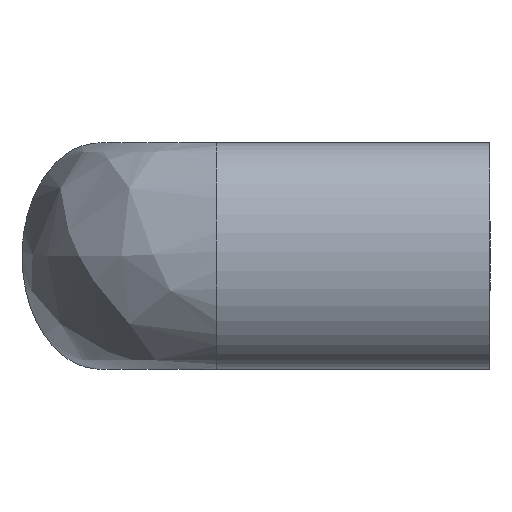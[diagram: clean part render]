
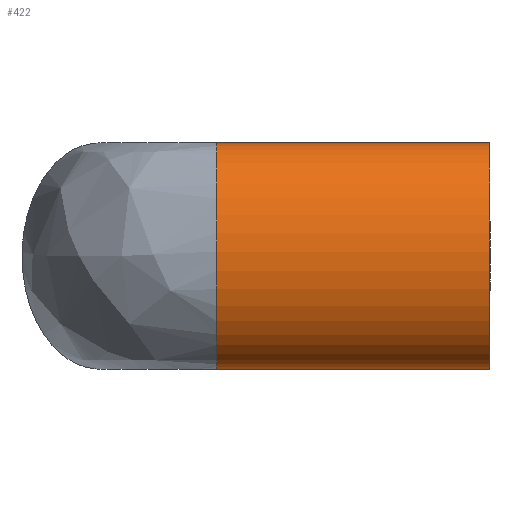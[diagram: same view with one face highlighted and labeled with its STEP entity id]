
A CAD part, left-side view. The second image highlights one B-rep face of the part: STEP entity #422.
In plain terms, the highlighted free-form (B-spline) face has degree [3, 1] with [4, 2] control points.
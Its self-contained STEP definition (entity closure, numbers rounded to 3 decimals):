
#10 = VECTOR ( 'NONE', #641, 1000. ) ;
#27 = LINE ( 'NONE', #263, #10 ) ;
#31 = CARTESIAN_POINT ( 'NONE',  ( -160., -15., -14.5 ) ) ;
#59 = EDGE_LOOP ( 'NONE', ( #547, #130, #645, #639 ) ) ;
#130 = ORIENTED_EDGE ( 'NONE', *, *, #479, .T. ) ;
#188 = VERTEX_POINT ( 'NONE', #292 ) ;
#191 = VECTOR ( 'NONE', #288, 1000. ) ;
#263 = CARTESIAN_POINT ( 'NONE',  ( -160., -15., -14.5 ) ) ;
#264 = CARTESIAN_POINT ( 'NONE',  ( -160., -15., 14.5 ) ) ;
#280 = EDGE_CURVE ( 'NONE', #398, #188, #374, .T. ) ;
#288 = DIRECTION ( 'NONE',  ( 0., -1., 0. ) ) ;
#292 = CARTESIAN_POINT ( 'NONE',  ( -160., -50., 14.5 ) ) ;
#293 = CARTESIAN_POINT ( 'NONE',  ( -160., -50., -14.5 ) ) ;
#310 = CARTESIAN_POINT ( 'NONE',  ( -180., -15., -14.5 ) ) ;
#313 = FACE_OUTER_BOUND ( 'NONE', #59, .T. ) ;
#332 = EDGE_CURVE ( 'NONE', #188, #638, #617, .T. ) ;
#333 = CARTESIAN_POINT ( 'NONE',  ( -180., -50., 14.5 ) ) ;
#354 = CARTESIAN_POINT ( 'NONE',  ( -180., -50., -14.5 ) ) ;
#355 = CARTESIAN_POINT ( 'NONE',  ( -160., -50., -14.5 ) ) ;
#374 = LINE ( 'NONE', #451, #191 ) ;
#388 =( BOUNDED_SURFACE ( )  B_SPLINE_SURFACE ( 3, 1, ( 
 ( #467, #502 ),
 ( #509, #515 ),
 ( #521, #526 ),
 ( #527, #531 ) ),
 .UNSPECIFIED., .F., .F., .T. ) 
 B_SPLINE_SURFACE_WITH_KNOTS ( ( 4, 4 ),
 ( 2, 2 ),
 ( 0., 1. ),
 ( 0., 1. ),
 .UNSPECIFIED. ) 
 GEOMETRIC_REPRESENTATION_ITEM ( )  RATIONAL_B_SPLINE_SURFACE ( (
 ( 1., 1.),
 ( 0.333, 0.333),
 ( 0.333, 0.333),
 ( 1., 1.) ) ) 
 REPRESENTATION_ITEM ( '' )  SURFACE ( )  );
#398 = VERTEX_POINT ( 'NONE', #403 ) ;
#403 = CARTESIAN_POINT ( 'NONE',  ( -160., -15., 14.5 ) ) ;
#422 = ADVANCED_FACE ( 'NONE', ( #313 ), #388, .T. ) ;
#450 = CARTESIAN_POINT ( 'NONE',  ( -160., -15., -14.5 ) ) ;
#451 = CARTESIAN_POINT ( 'NONE',  ( -160., -15., 14.5 ) ) ;
#467 = CARTESIAN_POINT ( 'NONE',  ( -160., -15., 14.5 ) ) ;
#479 = EDGE_CURVE ( 'NONE', #398, #506, #588, .T. ) ;
#502 = CARTESIAN_POINT ( 'NONE',  ( -160., -50., 14.5 ) ) ;
#506 = VERTEX_POINT ( 'NONE', #31 ) ;
#509 = CARTESIAN_POINT ( 'NONE',  ( -180., -15., 14.5 ) ) ;
#513 = CARTESIAN_POINT ( 'NONE',  ( -180., -15., 14.5 ) ) ;
#515 = CARTESIAN_POINT ( 'NONE',  ( -180., -50., 14.5 ) ) ;
#521 = CARTESIAN_POINT ( 'NONE',  ( -180., -15., -14.5 ) ) ;
#526 = CARTESIAN_POINT ( 'NONE',  ( -180., -50., -14.5 ) ) ;
#527 = CARTESIAN_POINT ( 'NONE',  ( -160., -15., -14.5 ) ) ;
#531 = CARTESIAN_POINT ( 'NONE',  ( -160., -50., -14.5 ) ) ;
#547 = ORIENTED_EDGE ( 'NONE', *, *, #280, .F. ) ;
#571 = CARTESIAN_POINT ( 'NONE',  ( -160., -50., 14.5 ) ) ;
#588 =( BOUNDED_CURVE ( )  B_SPLINE_CURVE ( 3, ( #264, #513, #310, #450 ),
 .UNSPECIFIED., .F., .T. ) 
 B_SPLINE_CURVE_WITH_KNOTS ( ( 4, 4 ),
 ( 3.142, 6.283 ),
 .UNSPECIFIED. ) 
 CURVE ( )  GEOMETRIC_REPRESENTATION_ITEM ( )  RATIONAL_B_SPLINE_CURVE ( ( 1., 0.333, 0.333, 1. ) ) 
 REPRESENTATION_ITEM ( '' )  );
#617 =( BOUNDED_CURVE ( )  B_SPLINE_CURVE ( 3, ( #571, #333, #354, #355 ),
 .UNSPECIFIED., .F., .F. ) 
 B_SPLINE_CURVE_WITH_KNOTS ( ( 4, 4 ),
 ( 3.142, 6.283 ),
 .UNSPECIFIED. ) 
 CURVE ( )  GEOMETRIC_REPRESENTATION_ITEM ( )  RATIONAL_B_SPLINE_CURVE ( ( 1., 0.333, 0.333, 1. ) ) 
 REPRESENTATION_ITEM ( '' )  );
#619 = EDGE_CURVE ( 'NONE', #506, #638, #27, .T. ) ;
#638 = VERTEX_POINT ( 'NONE', #293 ) ;
#639 = ORIENTED_EDGE ( 'NONE', *, *, #332, .F. ) ;
#641 = DIRECTION ( 'NONE',  ( 0., -1., 0. ) ) ;
#645 = ORIENTED_EDGE ( 'NONE', *, *, #619, .T. ) ;
